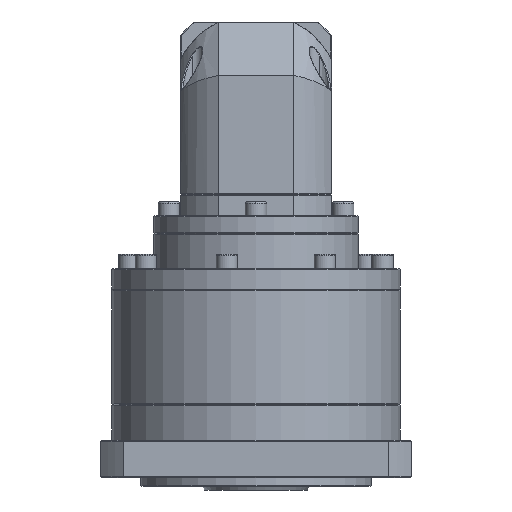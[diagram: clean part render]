
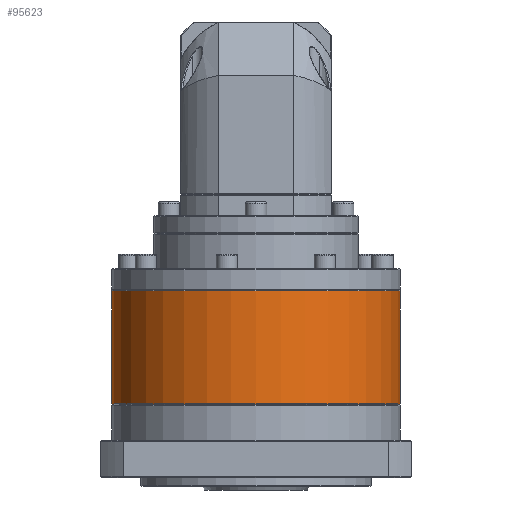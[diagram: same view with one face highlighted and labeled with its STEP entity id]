
A CAD part, front view. The second image highlights one B-rep face of the part: STEP entity #95623.
In plain terms, the highlighted cylindrical face has radius 81 mm (diameter 162 mm), a partial arc.
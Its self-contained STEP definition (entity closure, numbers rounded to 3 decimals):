
#676 = CARTESIAN_POINT ( 'NONE',  ( -53.067, -3.385, 315.1 ) ) ;
#4457 = CARTESIAN_POINT ( 'NONE',  ( 27.933, -3.385, 315.6 ) ) ;
#10655 = VERTEX_POINT ( 'NONE', #107519 ) ;
#14963 = LINE ( 'NONE', #83521, #21895 ) ;
#19565 = VERTEX_POINT ( 'NONE', #79833 ) ;
#20542 = ORIENTED_EDGE ( 'NONE', *, *, #31472, .T. ) ;
#21895 = VECTOR ( 'NONE', #29929, 1000. ) ;
#26771 = DIRECTION ( 'NONE',  ( 0., 0., -1. ) ) ;
#28532 = ORIENTED_EDGE ( 'NONE', *, *, #56418, .F. ) ;
#29929 = DIRECTION ( 'NONE',  ( 0., 0., -1. ) ) ;
#31284 = EDGE_CURVE ( 'NONE', #129920, #65547, #140383, .T. ) ;
#31472 = EDGE_CURVE ( 'NONE', #10655, #52499, #109273, .T. ) ;
#33070 = DIRECTION ( 'NONE',  ( 0., 0., -1. ) ) ;
#33841 = VECTOR ( 'NONE', #26771, 1000. ) ;
#38075 = DIRECTION ( 'NONE',  ( -1., 0., 0. ) ) ;
#39275 = CARTESIAN_POINT ( 'NONE',  ( -53.067, -3.385, 315.6 ) ) ;
#52499 = VERTEX_POINT ( 'NONE', #68760 ) ;
#56418 = EDGE_CURVE ( 'NONE', #10655, #65547, #63200, .T. ) ;
#61801 = AXIS2_PLACEMENT_3D ( 'NONE', #70819, #114825, #38075 ) ;
#63200 = LINE ( 'NONE', #4457, #33841 ) ;
#63803 = DIRECTION ( 'NONE',  ( -1., 0., 0. ) ) ;
#65547 = VERTEX_POINT ( 'NONE', #130648 ) ;
#68760 = CARTESIAN_POINT ( 'NONE',  ( -53.067, -84.385, 315.1 ) ) ;
#70819 = CARTESIAN_POINT ( 'NONE',  ( -53.067, -3.385, 251.6 ) ) ;
#74018 = ORIENTED_EDGE ( 'NONE', *, *, #31284, .T. ) ;
#75712 = AXIS2_PLACEMENT_3D ( 'NONE', #106114, #116725, #107529 ) ;
#79833 = CARTESIAN_POINT ( 'NONE',  ( -134.067, -3.385, 315.1 ) ) ;
#82886 = EDGE_CURVE ( 'NONE', #19565, #129920, #14963, .T. ) ;
#83521 = CARTESIAN_POINT ( 'NONE',  ( -134.067, -3.385, 315.6 ) ) ;
#88034 = CIRCLE ( 'NONE', #108681, 81. ) ;
#95623 = ADVANCED_FACE ( 'NONE', ( #131889 ), #102464, .T. ) ;
#97923 = ORIENTED_EDGE ( 'NONE', *, *, #110778, .T. ) ;
#102464 = CYLINDRICAL_SURFACE ( 'NONE', #109217, 81. ) ;
#105990 = ORIENTED_EDGE ( 'NONE', *, *, #82886, .T. ) ;
#106114 = CARTESIAN_POINT ( 'NONE',  ( -53.067, -3.385, 315.1 ) ) ;
#107519 = CARTESIAN_POINT ( 'NONE',  ( 27.933, -3.385, 315.1 ) ) ;
#107529 = DIRECTION ( 'NONE',  ( -1., 0., 0. ) ) ;
#108681 = AXIS2_PLACEMENT_3D ( 'NONE', #676, #33070, #133460 ) ;
#109217 = AXIS2_PLACEMENT_3D ( 'NONE', #39275, #127601, #63803 ) ;
#109273 = CIRCLE ( 'NONE', #75712, 81. ) ;
#110778 = EDGE_CURVE ( 'NONE', #52499, #19565, #88034, .T. ) ;
#114825 = DIRECTION ( 'NONE',  ( 0., 0., 1. ) ) ;
#116725 = DIRECTION ( 'NONE',  ( 0., 0., -1. ) ) ;
#127601 = DIRECTION ( 'NONE',  ( 0., 0., -1. ) ) ;
#128793 = CARTESIAN_POINT ( 'NONE',  ( -134.067, -3.385, 251.6 ) ) ;
#129920 = VERTEX_POINT ( 'NONE', #128793 ) ;
#130648 = CARTESIAN_POINT ( 'NONE',  ( 27.933, -3.385, 251.6 ) ) ;
#131296 = EDGE_LOOP ( 'NONE', ( #28532, #20542, #97923, #105990, #74018 ) ) ;
#131889 = FACE_OUTER_BOUND ( 'NONE', #131296, .T. ) ;
#133460 = DIRECTION ( 'NONE',  ( -1., 0., 0. ) ) ;
#140383 = CIRCLE ( 'NONE', #61801, 81. ) ;
